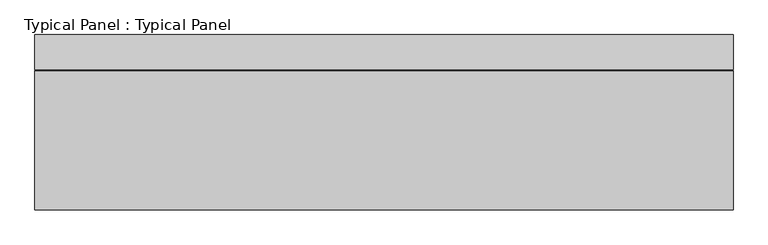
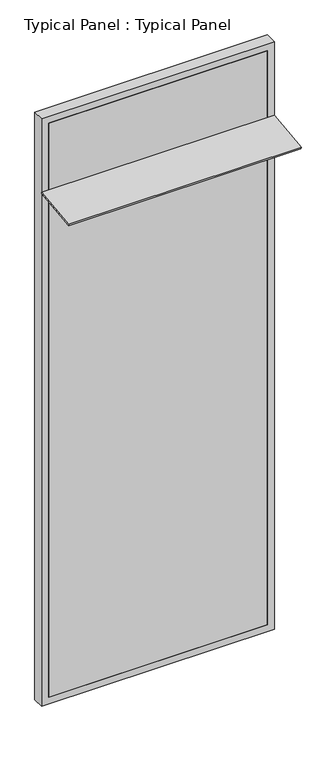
"""IFC4 building model written with IfcOpenShell, lengths in millimetres: plate geometry, Typical Panel : Typical Panel."""

import ifcopenshell
import ifcopenshell.guid

model = None  # the IFC model being written
_history = None  # IfcOwnerHistory: only IFC2X3 demands one
_inside = {}  # id of a spatial element -> (the spatial element, [elements in it])
_under = {}  # id of a project, library or spatial element -> (it, [spatial elements below it])
_declared = {}  # id of a project -> (the project, [libraries it declares])
_typed = {}  # id of a type object -> (the type object, [elements of that type])
_made_of = {}  # id of a material, layer set ... -> (it, [elements and type objects made of it])


def new_model(schema):
    """Start an empty IFC model of exactly this schema.

    Asked for "IFC4X3", IfcOpenShell would pick the latest addendum, in which some entities
    have other attributes; the version numbers below select the first issue.
    IFC2X3 requires an IfcOwnerHistory on every rooted entity: one is made here for all.
    """
    global model, _history
    if schema == "IFC4X3":
        model = ifcopenshell.file(schema_version=(4, 3, 0, 0))
    else:
        model = ifcopenshell.file(schema=schema)
    _inside.clear()
    _under.clear()
    _declared.clear()
    _typed.clear()
    _made_of.clear()
    _history = None
    if model.schema == "IFC2X3":
        org = make("IfcOrganization", Name="unknown")
        user = make(
            "IfcPersonAndOrganization",
            ThePerson=make("IfcPerson", FamilyName="unknown"),
            TheOrganization=org,
        )
        app = make(
            "IfcApplication",
            ApplicationDeveloper=org,
            Version="unknown",
            ApplicationFullName="unknown",
            ApplicationIdentifier="unknown",
        )
        _history = make(
            "IfcOwnerHistory",
            OwningUser=user,
            OwningApplication=app,
            ChangeAction="ADDED",
            CreationDate=0,
        )
    return model


def make(cls, **values):
    """One entity of the class cls with the attributes given. An attribute that is None is left unset."""
    return model.create_entity(
        cls, **{name: value for name, value in values.items() if value is not None}
    )


def rooted(cls, **values):
    """An entity with a GlobalId (a new one), such as an element, a storey or a relation."""
    return make(cls, GlobalId=ifcopenshell.guid.new(), OwnerHistory=_history, **values)


def si_unit(unit_type, name, prefix=None):
    """IfcSIUnit, for example si_unit("LENGTHUNIT", "METRE", prefix="MILLI")."""
    return make("IfcSIUnit", UnitType=unit_type, Prefix=prefix, Name=name)


def assignment(units):
    """IfcUnitAssignment: the units of a project."""
    return None if units is None else make("IfcUnitAssignment", Units=units)


def point(xyz):
    """IfcCartesianPoint."""
    return None if xyz is None else make("IfcCartesianPoint", Coordinates=xyz)


def direction(xyz):
    """IfcDirection."""
    return None if xyz is None else make("IfcDirection", DirectionRatios=xyz)


def frame(location, z_axis=None, x_axis=None):
    """IfcAxis2Placement3D, a coordinate frame: its origin and axes. An axis left out is left unset."""
    return make(
        "IfcAxis2Placement3D",
        Location=point(location),
        Axis=direction(z_axis),
        RefDirection=direction(x_axis),
    )


def origin():
    """The frame at (0, 0, 0) with its axes left unset."""
    return frame((0.0, 0.0, 0.0))


def place(relative_to, where):
    """IfcLocalPlacement: puts the frame where relative to a parent placement (None: the world)."""
    return make(
        "IfcLocalPlacement", PlacementRelTo=relative_to, RelativePlacement=where
    )


def context(
    kind, dimensions, precision=None, world=None, true_north=None, identifier=None
):
    """IfcGeometricRepresentationContext, for example the 3D "Model" context."""
    return make(
        "IfcGeometricRepresentationContext",
        ContextIdentifier=identifier,
        ContextType=kind,
        CoordinateSpaceDimension=dimensions,
        Precision=precision,
        WorldCoordinateSystem=world,
        TrueNorth=true_north,
    )


def project(units=None, contexts=None):
    """IfcProject with its units and contexts."""
    return rooted(
        "IfcProject",
        Name="project",
        RepresentationContexts=contexts,
        UnitsInContext=assignment(units),
    )


def spatial(cls, under=None, at=None, **own):
    """A site, building, storey or space (cls), placed at a placement, below another one or the project."""
    s = rooted(cls, ObjectPlacement=at, **own)
    if under is not None:
        _under.setdefault(under.id(), (under, []))[1].append(s)
    return s


def polyline(points):
    """IfcPolyline through the points."""
    return make("IfcPolyline", Points=[point(p) for p in points])


def outline(outer, holes=None, kind="AREA"):
    """IfcArbitraryClosedProfileDef: a profile drawn as a closed curve; with holes, ...WithVoids."""
    if holes is None:
        return make("IfcArbitraryClosedProfileDef", ProfileType=kind, OuterCurve=outer)
    return make(
        "IfcArbitraryProfileDefWithVoids",
        ProfileType=kind,
        OuterCurve=outer,
        InnerCurves=holes,
    )


def extrude(swept, where, along, depth):
    """IfcExtrudedAreaSolid: the profile swept, set in the frame where, extruded along a direction by depth."""
    return make(
        "IfcExtrudedAreaSolid",
        SweptArea=swept,
        Position=where,
        ExtrudedDirection=direction(along),
        Depth=depth,
    )


def shape(context_of_items, identifier, shape_type, items):
    """IfcShapeRepresentation: the items that make up one representation, for example the "Body"."""
    return make(
        "IfcShapeRepresentation",
        ContextOfItems=context_of_items,
        RepresentationIdentifier=identifier,
        RepresentationType=shape_type,
        Items=items,
    )


def source(mapping_origin, context_of_items, identifier, shape_type, items):
    """IfcRepresentationMap: a shape defined once, which mapped items show again and again."""
    return make(
        "IfcRepresentationMap",
        MappingOrigin=mapping_origin,
        MappedRepresentation=shape(context_of_items, identifier, shape_type, items),
    )


def transform(
    local_origin,
    x_axis=None,
    y_axis=None,
    z_axis=None,
    scale=None,
    scale2=None,
    scale3=None,
    uniform=True,
):
    """IfcCartesianTransformationOperator3D, or its non-uniform kind. x_axis, y_axis, z_axis: its Axis1, 2, 3."""
    if uniform:
        return make(
            "IfcCartesianTransformationOperator3D",
            Axis1=direction(x_axis),
            Axis2=direction(y_axis),
            LocalOrigin=point(local_origin),
            Scale=scale,
            Axis3=direction(z_axis),
        )
    return make(
        "IfcCartesianTransformationOperator3DnonUniform",
        Axis1=direction(x_axis),
        Axis2=direction(y_axis),
        LocalOrigin=point(local_origin),
        Scale=scale,
        Axis3=direction(z_axis),
        Scale2=scale2,
        Scale3=scale3,
    )


def mapped(mapping_source, mapping_target):
    """IfcMappedItem: shows the shape of a source again, moved by a transform."""
    return make(
        "IfcMappedItem", MappingSource=mapping_source, MappingTarget=mapping_target
    )


def made_of(thing, what):
    """Note that an element or type object is made of a material, layer set ...; save() writes the relation."""
    if what is not None:
        _made_of.setdefault(what.id(), (what, []))[1].append(thing)
    return thing


def element(
    cls,
    number,
    at=None,
    inside=None,
    cuts=None,
    type_object=None,
    material=None,
    context=None,
    identifier="Body",
    shape_type=None,
    held_by="IfcProductDefinitionShape",
    body=None,
    shapes=None,
    **own,
):
    """One element of the class cls, such as IfcWall. Its Tag is "e" and its number.

    at: its placement. inside: the storey or other place that contains it. cuts: it is an
    opening in that element (IfcRelVoidsElement). A single representation is given by context,
    identifier, shape_type and body (its items); several are given by shapes. held_by: the class
    of the entity that holds the representations. save() writes the other relations.
    """
    e = rooted(cls, Tag="e%d" % number, ObjectPlacement=at, **own)
    if body is not None:
        shapes = [shape(context, identifier, shape_type, body)]
    if shapes is not None:
        e.Representation = make(held_by, Representations=shapes)
    if inside is not None:
        _inside.setdefault(inside.id(), (inside, []))[1].append(e)
    if cuts is not None:
        rooted(
            "IfcRelVoidsElement", RelatingBuildingElement=cuts, RelatedOpeningElement=e
        )
    if type_object is not None:
        _typed.setdefault(type_object.id(), (type_object, []))[1].append(e)
    return made_of(e, material)


def aggregate(whole, parts):
    """IfcRelAggregates: a whole, such as a stair, and the parts it consists of."""
    return rooted("IfcRelAggregates", RelatingObject=whole, RelatedObjects=parts)


def save(model, path):
    """Write the relations noted so far, then the file.

    IfcRelAggregates (storeys below a building ...), IfcRelContainedInSpatialStructure (elements
    in a storey), IfcRelDefinesByType, IfcRelAssociatesMaterial and IfcRelDeclares: one each for
    every whole, place, type object, material and project.
    """
    for whole, parts in _under.values():
        aggregate(whole, parts)
    for where, things in _inside.values():
        rooted(
            "IfcRelContainedInSpatialStructure",
            RelatedElements=things,
            RelatingStructure=where,
        )
    for kind, things in _typed.values():
        rooted("IfcRelDefinesByType", RelatedObjects=things, RelatingType=kind)
    for what, things in _made_of.values():
        rooted("IfcRelAssociatesMaterial", RelatedObjects=things, RelatingMaterial=what)
    for by, libraries in _declared.values():
        rooted("IfcRelDeclares", RelatingContext=by, RelatedDefinitions=libraries)
    model.write(path)


def typical_panel_typical_panel_a58b40de(model_context):
    return source(origin(), model_context, "Body", "SweptSolid", [
        extrude(outline(polyline([(0.0, -300.0), (0.0, 0.0), (1500.0, 0.0), (1500.0, -300.0), (0.0, -300.0)])), frame((750.0, -301.5451521, 3453.5137355), z_axis=(0.0, -0.12186934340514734, 0.9925461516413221), x_axis=(-1.0, 0.0, 0.0)), (0.0, 0.0, 1.0), 10.0),
        extrude(outline(polyline([(0.0, -750.0), (0.0, 750.0), (4000.0, 750.0), (4000.0, -750.0), (0.0, -750.0)]), holes=[polyline([(45.0, 705.0), (45.0, -705.0), (3955.0, -705.0), (3955.0, 705.0), (45.0, 705.0)])]), frame((0.0, -1.5797986, 0.0), z_axis=(0.0, 1.0, 0.0), x_axis=(0.0, 0.0, 1.0)), (0.0, 0.0, 1.0), 75.0),
        extrude(outline(polyline([(705.0, -1.5797986), (-705.0, -1.5797986), (-705.0, 13.4202014), (705.0, 13.4202014), (705.0, -1.5797986)])), frame((0.0, 0.0, 45.0), z_axis=(0.0, 0.0, 1.0), x_axis=(1.0, 0.0, 0.0)), (0.0, 0.0, 1.0), 3910.0),
    ])


if __name__ == "__main__":
    model = new_model("IFC4")
    model_context = context("Model", 3, world=origin())
    ifc_project = project(units=[si_unit("LENGTHUNIT", "METRE", prefix="MILLI")], contexts=[model_context])
    site = spatial("IfcSite", under=ifc_project)
    building = spatial("IfcBuilding", under=site)
    placement = place(None, origin())
    typical_panel_typical_panel_shape = typical_panel_typical_panel_a58b40de(model_context)
    element("IfcPlate", 1, ObjectType="Typical Panel : Typical Panel", at=placement, inside=building, context=model_context, shape_type="MappedRepresentation", body=[
        mapped(typical_panel_typical_panel_shape, transform((0.0, 0.0, 0.0), x_axis=(1.0, 0.0, 0.0), y_axis=(0.0, 1.0, 0.0), z_axis=(0.0, 0.0, 1.0))),
    ])
    save(model, "model.ifc")
